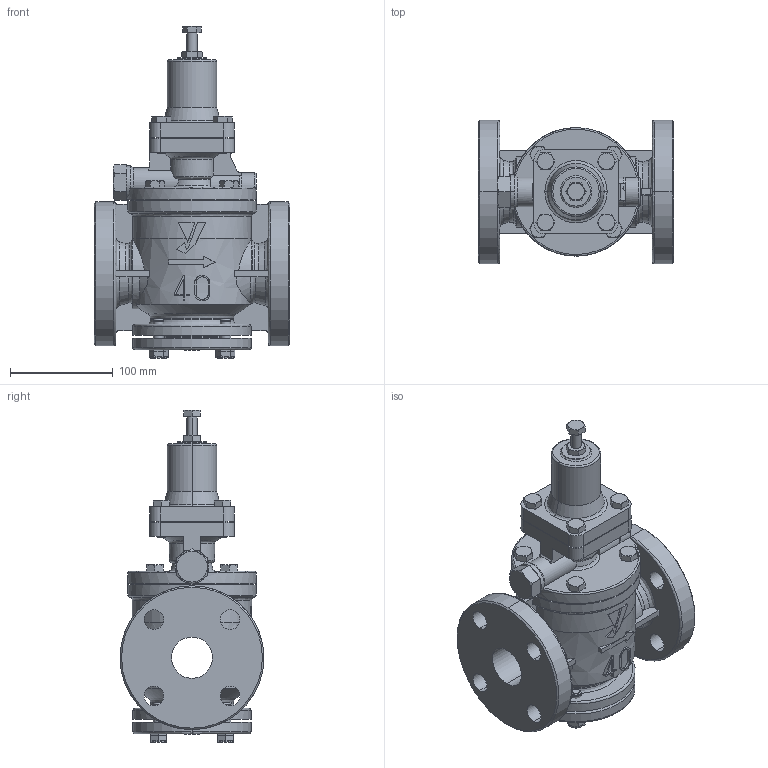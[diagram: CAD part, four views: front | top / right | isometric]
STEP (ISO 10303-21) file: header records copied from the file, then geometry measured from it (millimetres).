
FILE_DESCRIPTION( (''), '2;1');
FILE_NAME ('PC1015.12936.GP-1000(40A)JIS10K3D_28389.stp','2024-08-05T09:35:23',(''),(''),'spGate 19.8.4 (****-****-****-****)','','');
FILE_SCHEMA (('AUTOMOTIVE_DESIGN'));
Length unit declared in the file: millimetre
Products named in the file (6): Assembly; GP-1000 32A_1; CP_''_JIS B 1180 呼び径六角ボルト''_17166; CP_''_JIS B 1181 六角ナット 3種 上 ''_701; CP_''_JIS B 1180 呼び径六角ボ''_(1)_17166; CP_''_JIS B 1180 呼び径六角ボ''_(3)_17166
Assembly tree (20 placements, depth 2):
  Assembly
    GP-1000 32A_1
    CP_''_JIS B 1180 呼び径六角ボルト''_17166  x16
    CP_''_JIS B 1181 六角ナット 3種 上 ''_701
    CP_''_JIS B 1180 呼び径六角ボ''_(1)_17166
    CP_''_JIS B 1180 呼び径六角ボ''_(3)_17166
Bounding box: 190 x 140 x 323 mm (x, y, z)
Volume: 2586317.4 mm3; surface area: 283441.4 mm2
Topology: 20 solids, 20 shells, 759 faces, 1775 edges, 1106 vertices
Faces by surface type: plane 313, bspline 291, cylinder 155
Entity records: 23142 total; most frequent: CARTESIAN_POINT 6159, ORIENTED_EDGE 2050, DIRECTION 1591, COLOUR_RGB 1429, PRESENTATION_STYLE_ASSIGNMENT 1429, STYLED_ITEM 1429, EDGE_CURVE 1025, DRAUGHTING_PRE_DEFINED_CURVE_FONT 1025
